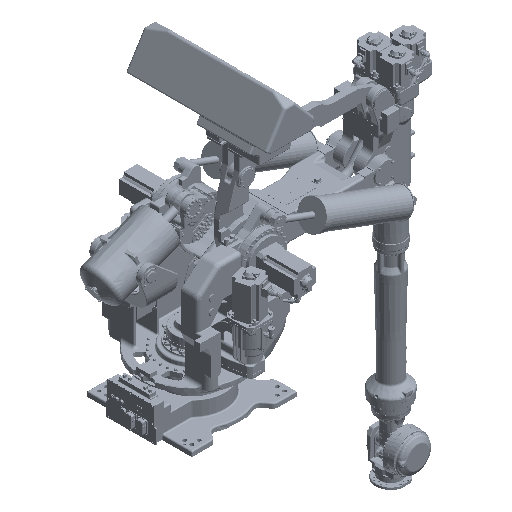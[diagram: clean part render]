
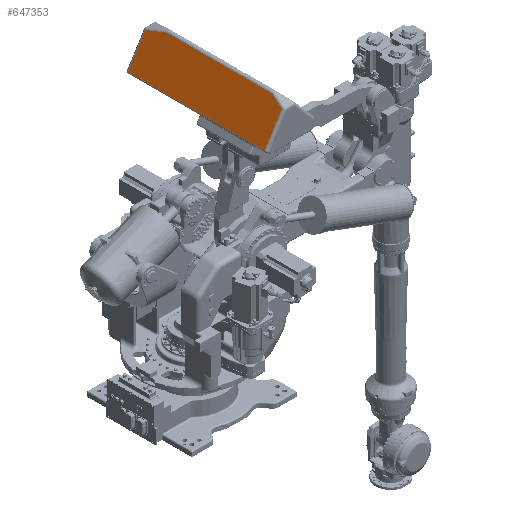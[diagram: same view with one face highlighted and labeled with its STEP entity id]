
A CAD part, isometric view. The second image highlights one B-rep face of the part: STEP entity #647353.
In plain terms, the highlighted planar face has unit normal (-0.849, 0, 0.529).
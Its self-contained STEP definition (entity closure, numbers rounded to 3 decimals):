
#628294=DIRECTION('',(0.,1.,0.));
#628295=VECTOR('',#628294,859.348);
#628296=CARTESIAN_POINT('',(275.837,-381.305,
2202.296));
#628297=LINE('',#628296,#628295);
#633805=DIRECTION('',(0.,1.,0.));
#633806=VECTOR('',#633805,1119.);
#633807=CARTESIAN_POINT('',(107.968,-488.,
1933.191));
#633808=LINE('',#633807,#633806);
#633822=DIRECTION('',(0.529,0.,0.848));
#633823=VECTOR('',#633822,267.175);
#633824=CARTESIAN_POINT('',(107.968,631.,
1933.191));
#633825=LINE('',#633824,#633823);
#634039=DIRECTION('',(-0.164,0.951,-0.264));
#634040=VECTOR('',#634039,160.921);
#634041=CARTESIAN_POINT('',(275.837,478.042,
2202.296));
#634042=LINE('',#634041,#634040);
#634048=DIRECTION('',(0.218,0.911,0.35));
#634049=VECTOR('',#634048,117.106);
#634050=CARTESIAN_POINT('',(250.288,-488.,
2161.34));
#634051=LINE('',#634050,#634049);
#634277=DIRECTION('',(-0.529,0.,-0.848));
#634278=VECTOR('',#634277,268.899);
#634279=CARTESIAN_POINT('',(250.288,-488.,
2161.34));
#634280=LINE('',#634279,#634278);
#635528=CARTESIAN_POINT('',(107.968,-488.,
1933.191));
#635529=CARTESIAN_POINT('',(107.968,631.,
1933.191));
#635530=VERTEX_POINT('',#635528);
#635531=VERTEX_POINT('',#635529);
#635717=CARTESIAN_POINT('',(275.837,478.042,
2202.296));
#635718=CARTESIAN_POINT('',(249.376,631.,
2159.877));
#635719=VERTEX_POINT('',#635717);
#635720=VERTEX_POINT('',#635718);
#635733=CARTESIAN_POINT('',(250.288,-488.,
2161.34));
#635734=CARTESIAN_POINT('',(275.837,-381.305,
2202.296));
#635735=VERTEX_POINT('',#635733);
#635736=VERTEX_POINT('',#635734);
#647336=CARTESIAN_POINT('',(290.,-508.,2225.));
#647337=DIRECTION('',(-0.848,0.,0.529));
#647338=DIRECTION('',(-0.529,0.,-0.848));
#647339=AXIS2_PLACEMENT_3D('',#647336,#647337,#647338);
#647340=PLANE('',#647339);
#647341=ORIENTED_EDGE('',*,*,#647327,.T.);
#647343=ORIENTED_EDGE('',*,*,#647342,.T.);
#647345=ORIENTED_EDGE('',*,*,#647344,.F.);
#647346=ORIENTED_EDGE('',*,*,#638522,.F.);
#647348=ORIENTED_EDGE('',*,*,#647347,.F.);
#647350=ORIENTED_EDGE('',*,*,#647349,.T.);
#647351=EDGE_LOOP('',(#647341,#647343,#647345,#647346,#647348,#647350));
#647352=FACE_OUTER_BOUND('',#647351,.F.);
#647353=ADVANCED_FACE('',(#647352),#647340,.T.);
#638522=EDGE_CURVE('',#635736,#635719,#628297,.T.);
#647327=EDGE_CURVE('',#635530,#635531,#633808,.T.);
#647342=EDGE_CURVE('',#635531,#635720,#633825,.T.);
#647344=EDGE_CURVE('',#635719,#635720,#634042,.T.);
#647347=EDGE_CURVE('',#635735,#635736,#634051,.T.);
#647349=EDGE_CURVE('',#635735,#635530,#634280,.T.);
